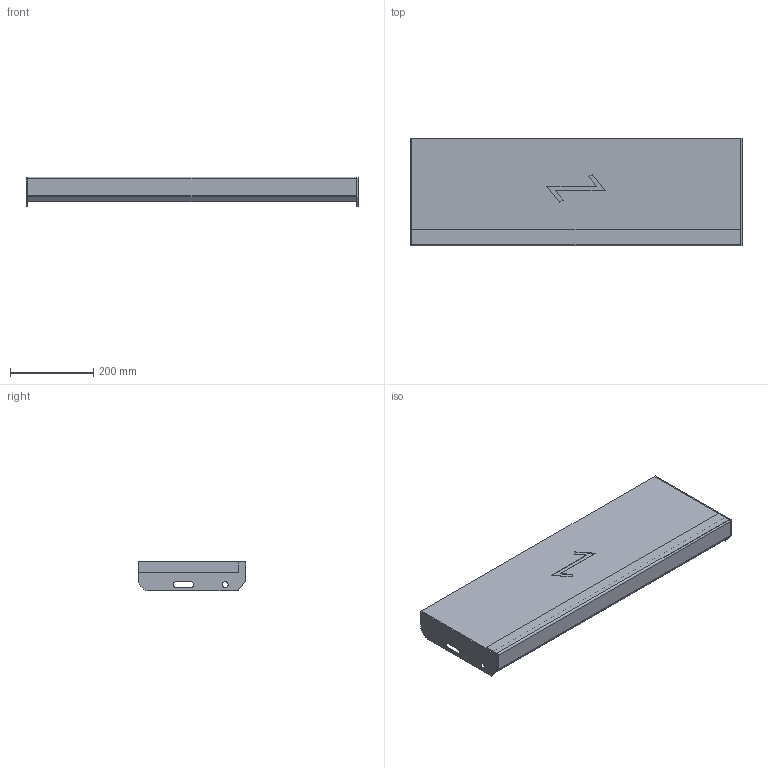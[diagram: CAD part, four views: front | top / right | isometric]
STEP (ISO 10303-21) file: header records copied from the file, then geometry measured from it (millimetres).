
FILE_DESCRIPTION (( 'STEP AP203' ), '1' );
FILE_NAME ('StegTH6-S-nya_steget-800x260 .STEP', '2020-03-04T07:43:10', ( '' ), ( '' ), 'SwSTEP 2.0', 'SolidWorks 2019', '' );
FILE_SCHEMA (( 'CONFIG_CONTROL_DESIGN' ));
Length unit declared in the file: millimetre
Products named in the file (5): SW0000039497; SW0000039244; StegTH6-S-nya_steget-800x260 ; SW0000038702; SW0000038971
Assembly tree (5 placements, depth 3):
  StegTH6-S-nya_steget-800x260 
    SW0000039497
      SW0000038971
      SW0000039244
      SW0000038702  x2
Bounding box: 800 x 260 x 72 mm (x, y, z)
Volume: 5078952 mm3; surface area: 669912.4 mm2
Topology: 4 solids, 4 shells, 67 faces, 158 edges, 100 vertices
Faces by surface type: plane 51, cylinder 16
Entity records: 2002 total; most frequent: DIRECTION 261, CARTESIAN_POINT 254, ORIENTED_EDGE 238, EDGE_CURVE 119, VECTOR 99, LINE 99, AXIS2_PLACEMENT_3D 81, VERTEX_POINT 74
